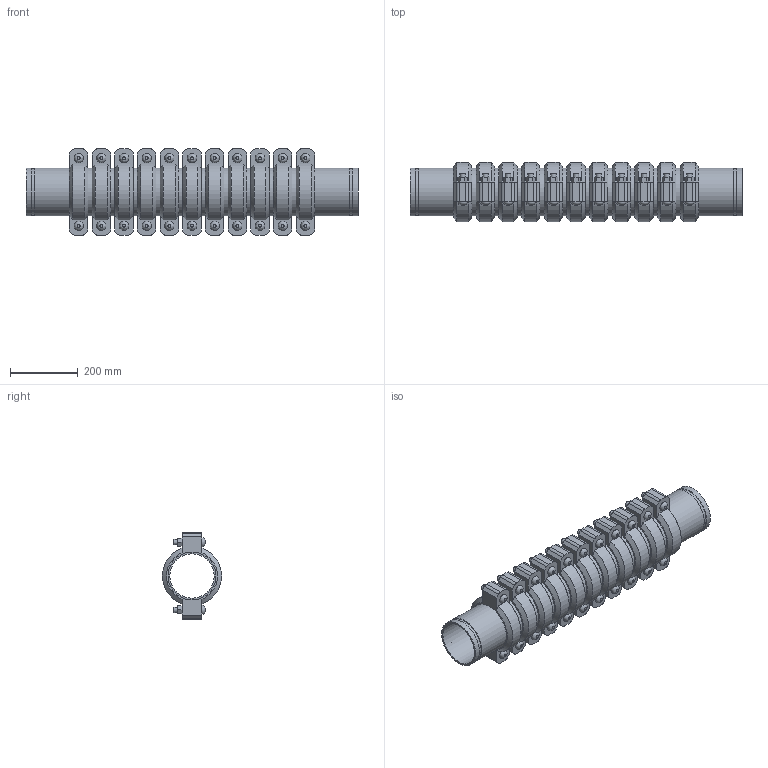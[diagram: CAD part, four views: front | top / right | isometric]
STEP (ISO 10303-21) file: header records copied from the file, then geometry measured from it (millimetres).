
FILE_DESCRIPTION(/* description */ ('VIC EXPANSION JOINT 11 COUPLINGS EXPANDED STYLE 155 (OGS)','CAx-IF Rec.Pracs.---Representation and Presentation of Product Manufacturing Information (PMI)---4.0---2014-10-13'),/* implementation_level */ '2;1');
FILE_NAME(/* name */ 'C:\Users\kkamble\AppData\Roaming\Autodesk\ApplicationPlugins\Victaulic.Temp\A474\Victaulic_IPS_Expansion Joint_Expanded_11 Couplings_Style 155 (OGS)_5 (125).stp',/* time_stamp */ '2021-06-26T23:52:12+02:00',/* author */ ('kkamble'),/* organization */ ('Victaulic'),/* preprocessor_version */ 'ST-DEVELOPER v17.2',/* originating_system */ 'Autodesk Inventor 2019',/* authorisation */ '');
FILE_SCHEMA (('AP242_MANAGED_MODEL_BASED_3D_ENGINEERING_MIM_LF { 1 0 10303 442 1 1 4 }'));
Length unit declared in the file: inch
Products named in the file (4): 155-05.0; Nipple-05.0; Nipple-05.0_1; 075-05.0
Assembly tree (23 placements, depth 2):
  155-05.0
    Nipple-05.0  x2
    Nipple-05.0_1  x10
    075-05.0  x11
Bounding box: 978.41 x 174.16 x 255.78 mm (x, y, z)
Volume: 9273716.4 mm3; surface area: 2016016.5 mm2
Topology: 23 solids, 45 shells, 771 faces, 1823 edges, 1278 vertices
Faces by surface type: plane 468, cylinder 237, cone 44, bspline 22
Full cylindrical faces by diameter (mm): 15.875 x44, 17.424 x22, 130.988 x12, 134.95 x11, 137.033 x24, 141.3 x58
Entity records: 2897 total; most frequent: CARTESIAN_POINT 507, DIRECTION 489, ORIENTED_EDGE 386, AXIS2_PLACEMENT_3D 198, EDGE_CURVE 193, VERTEX_POINT 138, EDGE_LOOP 107, LINE 93
